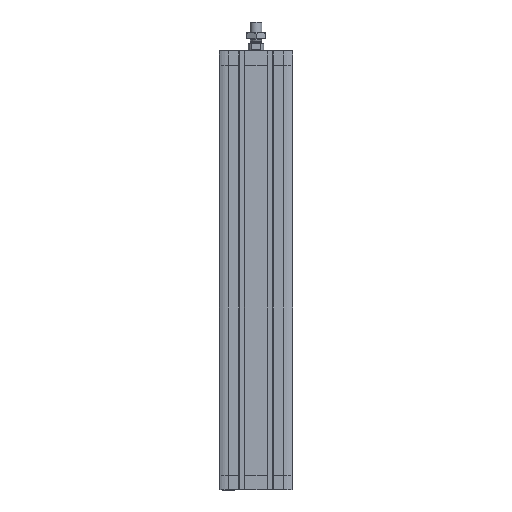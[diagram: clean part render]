
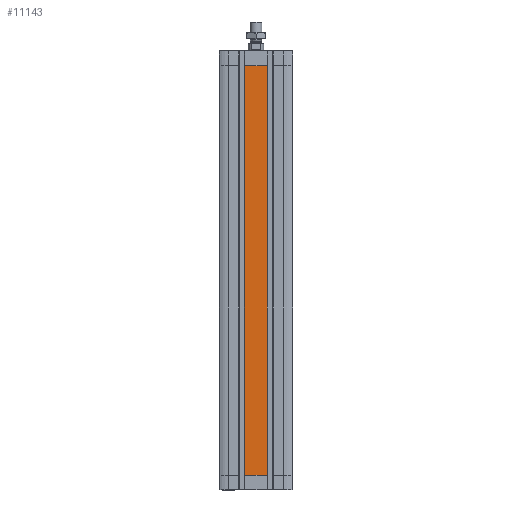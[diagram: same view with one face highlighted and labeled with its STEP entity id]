
A CAD part, front view. The second image highlights one B-rep face of the part: STEP entity #11143.
In plain terms, the highlighted planar face has unit normal (0, -1, 0).
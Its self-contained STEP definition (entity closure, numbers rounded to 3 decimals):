
#208 = CARTESIAN_POINT ( 'NONE',  ( 0., -37.5, -15. ) ) ;
#602 = PLANE ( 'NONE',  #3973 ) ;
#861 = EDGE_CURVE ( 'NONE', #3122, #9866, #3749, .T. ) ;
#880 = CARTESIAN_POINT ( 'NONE',  ( -11.4, -37.5, -434. ) ) ;
#1827 = DIRECTION ( 'NONE',  ( 0., 0., -1. ) ) ;
#2123 = DIRECTION ( 'NONE',  ( 0., 0., -1. ) ) ;
#2156 = CARTESIAN_POINT ( 'NONE',  ( -11.4, -37.5, -434. ) ) ;
#2225 = CARTESIAN_POINT ( 'NONE',  ( -11.4, -37.5, -15. ) ) ;
#2701 = DIRECTION ( 'NONE',  ( -1., 0., 0. ) ) ;
#3122 = VERTEX_POINT ( 'NONE', #2225 ) ;
#3665 = CARTESIAN_POINT ( 'NONE',  ( -11.4, -37.5, -434. ) ) ;
#3686 = EDGE_CURVE ( 'NONE', #13125, #3122, #11717, .T. ) ;
#3749 = LINE ( 'NONE', #2156, #5431 ) ;
#3813 = DIRECTION ( 'NONE',  ( 0., 0., 1. ) ) ;
#3973 = AXIS2_PLACEMENT_3D ( 'NONE', #10676, #9441, #1827 ) ;
#4721 = ORIENTED_EDGE ( 'NONE', *, *, #3686, .T. ) ;
#4803 = EDGE_LOOP ( 'NONE', ( #7722, #13080, #4721, #10468 ) ) ;
#5431 = VECTOR ( 'NONE', #2123, 1000. ) ;
#6355 = CARTESIAN_POINT ( 'NONE',  ( 11.4, -37.5, -434. ) ) ;
#6658 = EDGE_CURVE ( 'NONE', #9866, #15976, #7501, .T. ) ;
#7016 = FACE_OUTER_BOUND ( 'NONE', #4803, .T. ) ;
#7501 = LINE ( 'NONE', #880, #13939 ) ;
#7722 = ORIENTED_EDGE ( 'NONE', *, *, #6658, .T. ) ;
#9441 = DIRECTION ( 'NONE',  ( 0., -1., 0. ) ) ;
#9729 = DIRECTION ( 'NONE',  ( 1., 0., 0. ) ) ;
#9866 = VERTEX_POINT ( 'NONE', #3665 ) ;
#10468 = ORIENTED_EDGE ( 'NONE', *, *, #861, .T. ) ;
#10502 = CARTESIAN_POINT ( 'NONE',  ( 11.4, -37.5, -15. ) ) ;
#10676 = CARTESIAN_POINT ( 'NONE',  ( -11.4, -37.5, -434. ) ) ;
#11106 = VECTOR ( 'NONE', #2701, 1000. ) ;
#11143 = ADVANCED_FACE ( 'NONE', ( #7016 ), #602, .T. ) ;
#11717 = LINE ( 'NONE', #208, #11106 ) ;
#13080 = ORIENTED_EDGE ( 'NONE', *, *, #14466, .T. ) ;
#13125 = VERTEX_POINT ( 'NONE', #10502 ) ;
#13939 = VECTOR ( 'NONE', #9729, 1000. ) ;
#14466 = EDGE_CURVE ( 'NONE', #15976, #13125, #15357, .T. ) ;
#14754 = CARTESIAN_POINT ( 'NONE',  ( 11.4, -37.5, -434. ) ) ;
#15357 = LINE ( 'NONE', #6355, #15743 ) ;
#15743 = VECTOR ( 'NONE', #3813, 1000. ) ;
#15976 = VERTEX_POINT ( 'NONE', #14754 ) ;
